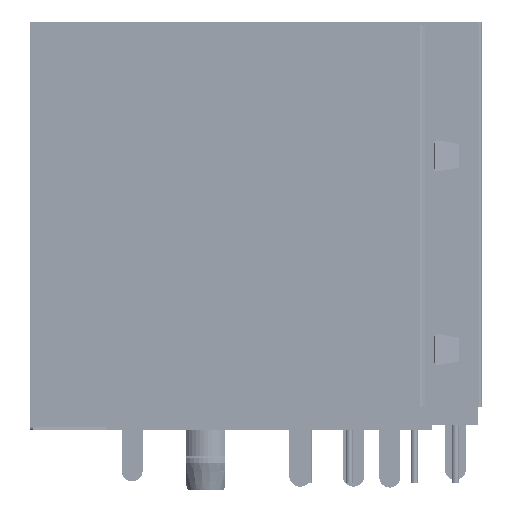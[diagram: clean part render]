
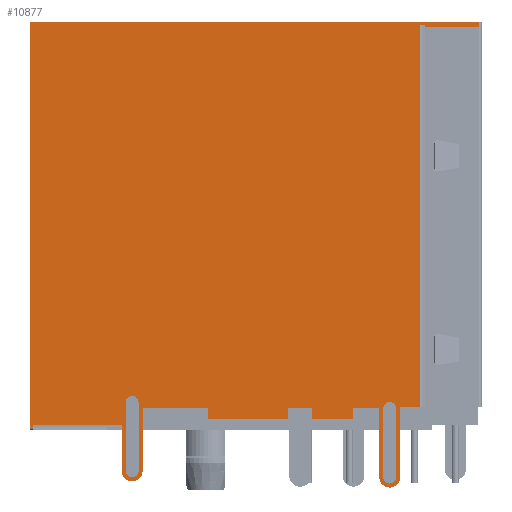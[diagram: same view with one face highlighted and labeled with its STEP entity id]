
A CAD part, front view. The second image highlights one B-rep face of the part: STEP entity #10877.
In plain terms, the highlighted planar face has unit normal (0, -1, 0).
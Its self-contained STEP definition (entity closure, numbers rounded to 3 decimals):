
#124=B_SPLINE_CURVE_WITH_KNOTS('',3,(#162267,#162268,#162269,#162270),
 .UNSPECIFIED.,.F.,.F.,(4,4),(0.,1.),.UNSPECIFIED.);
#125=B_SPLINE_CURVE_WITH_KNOTS('',3,(#162273,#162274,#162275,#162276),
 .UNSPECIFIED.,.F.,.F.,(4,4),(0.,1.),.UNSPECIFIED.);
#126=B_SPLINE_CURVE_WITH_KNOTS('',3,(#162278,#162279,#162280,#162281),
 .UNSPECIFIED.,.F.,.F.,(4,4),(0.,1.),.UNSPECIFIED.);
#4165=CIRCLE('',#108988,0.65);
#4166=CIRCLE('',#108989,0.65);
#10877=ADVANCED_FACE('',(#20100),#15590,.F.);
#15590=PLANE('',#108990);
#20100=FACE_OUTER_BOUND('',#26340,.T.);
#26340=EDGE_LOOP('',(#49032,#49033,#49034,#49035,#49036,#49037,#49038,#49039,
#49040,#49041,#49042,#49043,#49044,#49045,#49046,#49047,#49048,#49049,#49050,
#49051,#49052,#49053,#49054,#49055,#49056,#49057,#49058));
#49032=ORIENTED_EDGE('',*,*,#76707,.F.);
#49033=ORIENTED_EDGE('',*,*,#76782,.F.);
#49034=ORIENTED_EDGE('',*,*,#76783,.F.);
#49035=ORIENTED_EDGE('',*,*,#76344,.T.);
#49036=ORIENTED_EDGE('',*,*,#76784,.T.);
#49037=ORIENTED_EDGE('',*,*,#76785,.T.);
#49038=ORIENTED_EDGE('',*,*,#76786,.T.);
#49039=ORIENTED_EDGE('',*,*,#76787,.T.);
#49040=ORIENTED_EDGE('',*,*,#76788,.T.);
#49041=ORIENTED_EDGE('',*,*,#76789,.T.);
#49042=ORIENTED_EDGE('',*,*,#76790,.F.);
#49043=ORIENTED_EDGE('',*,*,#76791,.F.);
#49044=ORIENTED_EDGE('',*,*,#76792,.F.);
#49045=ORIENTED_EDGE('',*,*,#76793,.F.);
#49046=ORIENTED_EDGE('',*,*,#76794,.F.);
#49047=ORIENTED_EDGE('',*,*,#76795,.F.);
#49048=ORIENTED_EDGE('',*,*,#76796,.T.);
#49049=ORIENTED_EDGE('',*,*,#76797,.T.);
#49050=ORIENTED_EDGE('',*,*,#76798,.T.);
#49051=ORIENTED_EDGE('',*,*,#76799,.T.);
#49052=ORIENTED_EDGE('',*,*,#76800,.T.);
#49053=ORIENTED_EDGE('',*,*,#76801,.T.);
#49054=ORIENTED_EDGE('',*,*,#76636,.F.);
#49055=ORIENTED_EDGE('',*,*,#76802,.F.);
#49056=ORIENTED_EDGE('',*,*,#76803,.F.);
#49057=ORIENTED_EDGE('',*,*,#76804,.F.);
#49058=ORIENTED_EDGE('',*,*,#76805,.T.);
#63471=VERTEX_POINT('',#161368);
#63472=VERTEX_POINT('',#161370);
#63747=VERTEX_POINT('',#161939);
#63748=VERTEX_POINT('',#161941);
#63808=VERTEX_POINT('',#162073);
#63809=VERTEX_POINT('',#162075);
#63878=VERTEX_POINT('',#162231);
#63879=VERTEX_POINT('',#162234);
#63880=VERTEX_POINT('',#162236);
#63881=VERTEX_POINT('',#162238);
#63882=VERTEX_POINT('',#162240);
#63883=VERTEX_POINT('',#162242);
#63884=VERTEX_POINT('',#162244);
#63885=VERTEX_POINT('',#162246);
#63886=VERTEX_POINT('',#162248);
#63887=VERTEX_POINT('',#162250);
#63888=VERTEX_POINT('',#162252);
#63889=VERTEX_POINT('',#162254);
#63890=VERTEX_POINT('',#162256);
#63891=VERTEX_POINT('',#162258);
#63892=VERTEX_POINT('',#162260);
#63893=VERTEX_POINT('',#162262);
#63894=VERTEX_POINT('',#162264);
#63895=VERTEX_POINT('',#162266);
#63896=VERTEX_POINT('',#162272);
#63897=VERTEX_POINT('',#162277);
#63898=VERTEX_POINT('',#162282);
#76344=EDGE_CURVE('',#63472,#63471,#88717,.T.);
#76636=EDGE_CURVE('',#63747,#63748,#88922,.T.);
#76707=EDGE_CURVE('',#63808,#63809,#88989,.T.);
#76782=EDGE_CURVE('',#63878,#63808,#89046,.T.);
#76783=EDGE_CURVE('',#63472,#63878,#89047,.T.);
#76784=EDGE_CURVE('',#63471,#63879,#89048,.T.);
#76785=EDGE_CURVE('',#63879,#63880,#89049,.T.);
#76786=EDGE_CURVE('',#63880,#63881,#4165,.T.);
#76787=EDGE_CURVE('',#63881,#63882,#89050,.T.);
#76788=EDGE_CURVE('',#63882,#63883,#89051,.T.);
#76789=EDGE_CURVE('',#63883,#63884,#89052,.T.);
#76790=EDGE_CURVE('',#63885,#63884,#89053,.T.);
#76791=EDGE_CURVE('',#63886,#63885,#89054,.T.);
#76792=EDGE_CURVE('',#63887,#63886,#89055,.T.);
#76793=EDGE_CURVE('',#63888,#63887,#89056,.T.);
#76794=EDGE_CURVE('',#63889,#63888,#89057,.T.);
#76795=EDGE_CURVE('',#63890,#63889,#89058,.T.);
#76796=EDGE_CURVE('',#63890,#63891,#89059,.T.);
#76797=EDGE_CURVE('',#63891,#63892,#89060,.T.);
#76798=EDGE_CURVE('',#63892,#63893,#4166,.T.);
#76799=EDGE_CURVE('',#63893,#63894,#89061,.T.);
#76800=EDGE_CURVE('',#63894,#63895,#89062,.T.);
#76801=EDGE_CURVE('',#63895,#63748,#124,.T.);
#76802=EDGE_CURVE('',#63896,#63747,#89063,.T.);
#76803=EDGE_CURVE('',#63897,#63896,#125,.T.);
#76804=EDGE_CURVE('',#63898,#63897,#126,.T.);
#76805=EDGE_CURVE('',#63898,#63809,#89064,.T.);
#88717=LINE('',#161369,#100094);
#88922=LINE('',#161940,#100299);
#88989=LINE('',#162074,#100366);
#89046=LINE('',#162230,#100423);
#89047=LINE('',#162232,#100424);
#89048=LINE('',#162233,#100425);
#89049=LINE('',#162235,#100426);
#89050=LINE('',#162239,#100427);
#89051=LINE('',#162241,#100428);
#89052=LINE('',#162243,#100429);
#89053=LINE('',#162245,#100430);
#89054=LINE('',#162247,#100431);
#89055=LINE('',#162249,#100432);
#89056=LINE('',#162251,#100433);
#89057=LINE('',#162253,#100434);
#89058=LINE('',#162255,#100435);
#89059=LINE('',#162257,#100436);
#89060=LINE('',#162259,#100437);
#89061=LINE('',#162263,#100438);
#89062=LINE('',#162265,#100439);
#89063=LINE('',#162271,#100440);
#89064=LINE('',#162283,#100441);
#100094=VECTOR('',#131867,1.);
#100299=VECTOR('',#132252,1.);
#100366=VECTOR('',#132331,1.);
#100423=VECTOR('',#132424,1.);
#100424=VECTOR('',#132425,1.);
#100425=VECTOR('',#132426,1.);
#100426=VECTOR('',#132427,1.);
#100427=VECTOR('',#132430,1.);
#100428=VECTOR('',#132431,1.);
#100429=VECTOR('',#132432,1.);
#100430=VECTOR('',#132433,1.);
#100431=VECTOR('',#132434,1.);
#100432=VECTOR('',#132435,1.);
#100433=VECTOR('',#132436,1.);
#100434=VECTOR('',#132437,1.);
#100435=VECTOR('',#132438,1.);
#100436=VECTOR('',#132439,1.);
#100437=VECTOR('',#132440,1.);
#100438=VECTOR('',#132443,1.);
#100439=VECTOR('',#132444,1.);
#100440=VECTOR('',#132445,1.);
#100441=VECTOR('',#132446,1.);
#108988=AXIS2_PLACEMENT_3D('',#162237,#132428,#132429);
#108989=AXIS2_PLACEMENT_3D('',#162261,#132441,#132442);
#108990=AXIS2_PLACEMENT_3D('',#162284,#132447,#132448);
#131867=DIRECTION('',(0.,0.,1.));
#132252=DIRECTION('',(-1.,0.,0.));
#132331=DIRECTION('',(1.,0.,0.));
#132424=DIRECTION('',(0.,0.,1.));
#132425=DIRECTION('',(-1.,0.,0.));
#132426=DIRECTION('',(1.,0.,0.));
#132427=DIRECTION('',(0.,0.,-1.));
#132428=DIRECTION('',(0.,-1.,0.));
#132429=DIRECTION('',(0.,0.,1.));
#132430=DIRECTION('',(0.,0.,1.));
#132431=DIRECTION('',(1.,0.,0.));
#132432=DIRECTION('',(0.,0.,-1.));
#132433=DIRECTION('',(-1.,0.,0.));
#132434=DIRECTION('',(0.,0.,-1.));
#132435=DIRECTION('',(-1.,0.,0.));
#132436=DIRECTION('',(0.,0.,1.));
#132437=DIRECTION('',(-1.,0.,0.));
#132438=DIRECTION('',(0.,0.,-1.));
#132439=DIRECTION('',(1.,0.,0.));
#132440=DIRECTION('',(0.,0.,-1.));
#132441=DIRECTION('',(0.,-1.,0.));
#132442=DIRECTION('',(0.,0.,1.));
#132443=DIRECTION('',(0.,0.,1.));
#132444=DIRECTION('',(1.,0.,0.));
#132445=DIRECTION('',(0.,0.,1.));
#132446=DIRECTION('',(0.,0.,1.));
#132447=DIRECTION('',(0.,1.,0.));
#132448=DIRECTION('',(0.,0.,1.));
#161368=CARTESIAN_POINT('',(-0.09,-64.49,-10.4));
#161369=CARTESIAN_POINT('',(-0.09,-64.49,0.));
#161370=CARTESIAN_POINT('',(-0.09,-64.49,-10.5));
#161939=CARTESIAN_POINT('',(24.207,-64.49,14.4));
#161940=CARTESIAN_POINT('',(0.,-64.49,14.4));
#161941=CARTESIAN_POINT('',(23.87,-64.49,14.4));
#162073=CARTESIAN_POINT('',(-0.29,-64.49,14.6));
#162074=CARTESIAN_POINT('',(0.,-64.49,14.6));
#162075=CARTESIAN_POINT('',(27.51,-64.49,14.6));
#162230=CARTESIAN_POINT('',(-0.29,-64.49,14.5));
#162231=CARTESIAN_POINT('',(-0.29,-64.49,-10.5));
#162232=CARTESIAN_POINT('',(-0.29,-64.49,-10.5));
#162233=CARTESIAN_POINT('',(-0.09,-64.49,-10.4));
#162234=CARTESIAN_POINT('',(5.38,-64.49,-10.4));
#162235=CARTESIAN_POINT('',(5.38,-64.49,-9.2));
#162236=CARTESIAN_POINT('',(5.38,-64.49,-13.23));
#162237=CARTESIAN_POINT('',(6.03,-64.49,-13.23));
#162238=CARTESIAN_POINT('',(6.68,-64.49,-13.23));
#162239=CARTESIAN_POINT('',(6.68,-64.49,-10.4));
#162240=CARTESIAN_POINT('',(6.68,-64.49,-9.3));
#162241=CARTESIAN_POINT('',(6.68,-64.49,-9.3));
#162242=CARTESIAN_POINT('',(10.71,-64.49,-9.3));
#162243=CARTESIAN_POINT('',(10.71,-64.49,-9.2));
#162244=CARTESIAN_POINT('',(10.71,-64.49,-10.));
#162245=CARTESIAN_POINT('',(0.,-64.49,-10.));
#162246=CARTESIAN_POINT('',(15.695,-64.49,-10.));
#162247=CARTESIAN_POINT('',(15.695,-64.49,0.));
#162248=CARTESIAN_POINT('',(15.695,-64.49,-9.3));
#162249=CARTESIAN_POINT('',(0.,-64.49,-9.3));
#162250=CARTESIAN_POINT('',(17.195,-64.49,-9.3));
#162251=CARTESIAN_POINT('',(17.195,-64.49,-10.1));
#162252=CARTESIAN_POINT('',(17.195,-64.49,-10.));
#162253=CARTESIAN_POINT('',(0.,-64.49,-10.));
#162254=CARTESIAN_POINT('',(19.71,-64.49,-10.));
#162255=CARTESIAN_POINT('',(19.71,-64.49,-9.9));
#162256=CARTESIAN_POINT('',(19.71,-64.49,-9.3));
#162257=CARTESIAN_POINT('',(19.72,-64.49,-9.3));
#162258=CARTESIAN_POINT('',(21.35,-64.49,-9.3));
#162259=CARTESIAN_POINT('',(21.35,-64.49,-8.79));
#162260=CARTESIAN_POINT('',(21.35,-64.49,-13.61));
#162261=CARTESIAN_POINT('',(22.,-64.49,-13.61));
#162262=CARTESIAN_POINT('',(22.65,-64.49,-13.61));
#162263=CARTESIAN_POINT('',(22.65,-64.49,0.));
#162264=CARTESIAN_POINT('',(22.65,-64.49,-9.243));
#162265=CARTESIAN_POINT('',(19.72,-64.49,-9.243));
#162266=CARTESIAN_POINT('',(23.87,-64.49,-9.243));
#162267=CARTESIAN_POINT('',(23.87,-64.49,-9.243));
#162268=CARTESIAN_POINT('',(23.87,-64.49,-1.362));
#162269=CARTESIAN_POINT('',(23.87,-64.49,6.519));
#162270=CARTESIAN_POINT('',(23.87,-64.49,14.4));
#162271=CARTESIAN_POINT('',(24.207,-64.49,-9.2));
#162272=CARTESIAN_POINT('',(24.207,-64.49,14.3));
#162273=CARTESIAN_POINT('',(27.507,-64.49,14.3));
#162274=CARTESIAN_POINT('',(26.407,-64.49,14.3));
#162275=CARTESIAN_POINT('',(25.307,-64.49,14.3));
#162276=CARTESIAN_POINT('',(24.207,-64.49,14.3));
#162277=CARTESIAN_POINT('',(27.507,-64.49,14.3));
#162278=CARTESIAN_POINT('',(27.71,-64.49,14.3));
#162279=CARTESIAN_POINT('',(27.642,-64.49,14.3));
#162280=CARTESIAN_POINT('',(27.575,-64.49,14.3));
#162281=CARTESIAN_POINT('',(27.507,-64.49,14.3));
#162282=CARTESIAN_POINT('',(27.51,-64.49,14.3));
#162283=CARTESIAN_POINT('',(27.51,-64.49,14.6));
#162284=CARTESIAN_POINT('',(0.,-64.49,0.));
